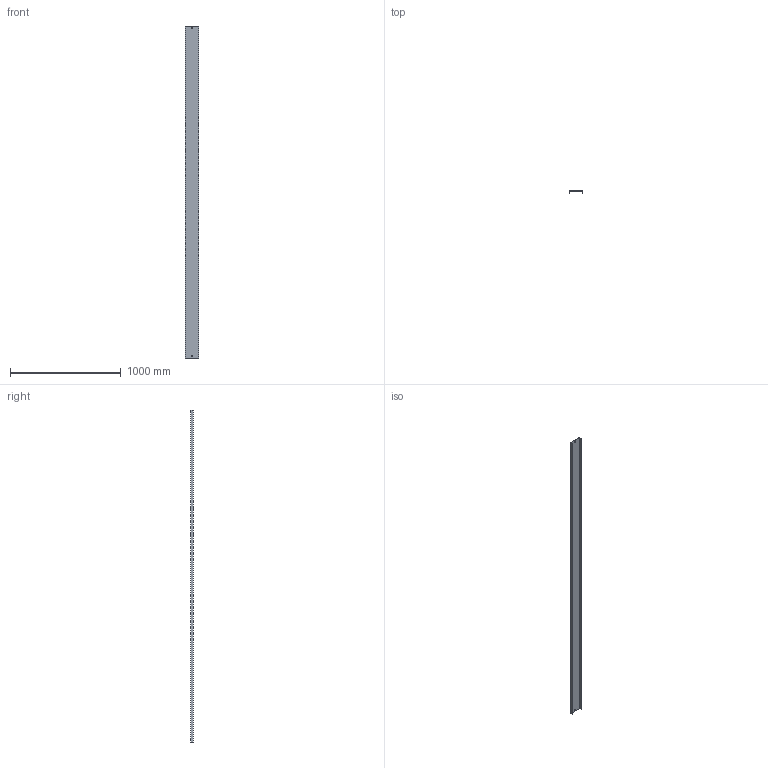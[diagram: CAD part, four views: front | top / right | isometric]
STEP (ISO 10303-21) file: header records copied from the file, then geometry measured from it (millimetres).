
FILE_DESCRIPTION (( 'STEP AP214' ), '1' );
FILE_NAME ('05N3R117.step', '2025-02-21T09:59:21', ( '' ), ( '' ), 'SwSTEP 2.0', 'SolidWorks 2023', '' );
FILE_SCHEMA (( 'AUTOMOTIVE_DESIGN' ));
Length unit declared in the file: millimetre
Products named in the file (1): 05N3R117
Bounding box: 120.5 x 20 x 3000 mm (x, y, z)
Volume: 708574.5 mm3; surface area: 954331.5 mm2
Topology: 1 solids, 1 shells, 18 faces, 48 edges, 32 vertices
Faces by surface type: plane 18
Entity records: 583 total; most frequent: CARTESIAN_POINT 99, ORIENTED_EDGE 96, DIRECTION 86, LINE 48, VECTOR 48, EDGE_CURVE 48, VERTEX_POINT 32, EDGE_LOOP 22
